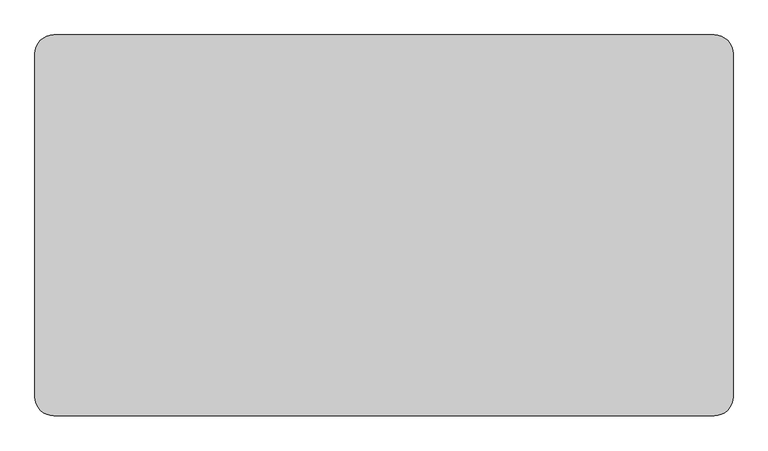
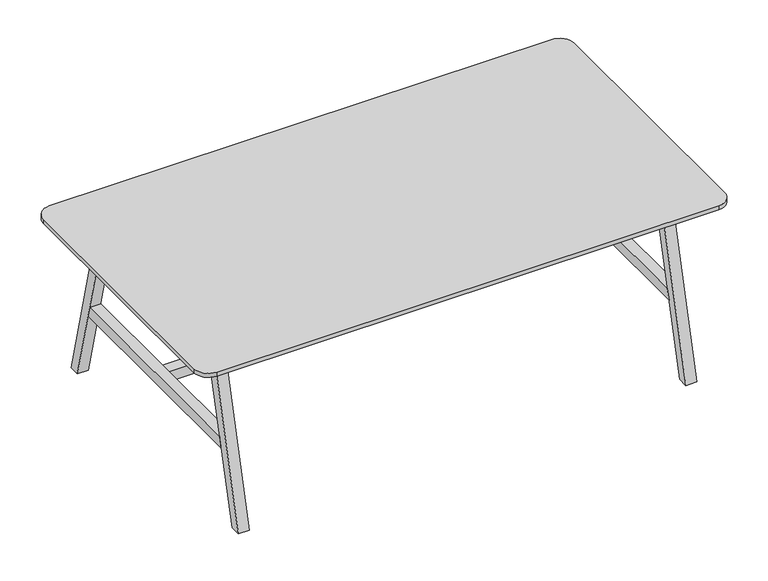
"""IFC4 building model written with IfcOpenShell, lengths in millimetres: furniture geometry, BDG_BossDesign_Tbls_AgentTables4Legs : AGE-DT-2200-1200-3D."""

from ifc_helpers import new_model, si_unit, point, frame, frame_2d, origin, place, context, project, spatial, polyline, circle_curve, trimmed, segment, composite_curve, outline, extrude, source, transform, mapped, element, save


def furniture_71a5d85f(model_context):
    return source(origin(), model_context, "Body", "SweptSolid", [
        extrude(outline(polyline([(-466.3977249, 345.0), (466.3977249, 345.0), (477.9545427, 300.0), (-477.9545427, 300.0), (-466.3977249, 345.0)])), frame((905.0, 0.0, 0.0), z_axis=(1.0, 0.0, 0.0), x_axis=(0.0, 1.0, 0.0)), (0.0, 0.0, 1.0), 45.0),
        extrude(outline(polyline([(600.0, 0.0), (554.9999949, 0.0), (385.5, 660.0), (430.5000051, 660.0), (600.0, 0.0)])), frame((-950.0, 0.0, 0.0), z_axis=(1.0, 0.0, 0.0), x_axis=(0.0, 1.0, 0.0)), (0.0, 0.0, 1.0), 45.0),
        extrude(outline(polyline([(-600.0, 0.0), (-430.5000051, 660.0), (-385.5, 660.0), (-554.9999949, 0.0), (-600.0, 0.0)])), frame((-950.0, 0.0, 0.0), z_axis=(1.0, 0.0, 0.0), x_axis=(0.0, 1.0, 0.0)), (0.0, 0.0, 1.0), 45.0),
        extrude(outline(polyline([(-379.5, 722.0), (379.5, 722.0), (397.9691272, 650.0), (-397.9691272, 650.0), (-379.5, 722.0)])), frame((488.0, 0.0, 0.0), z_axis=(1.0, 0.0, 0.0), x_axis=(0.0, 1.0, 0.0)), (0.0, 0.0, 1.0), 24.0),
        extrude(outline(polyline([(-466.3977249, 345.0), (466.3977249, 345.0), (477.9545427, 300.0), (-477.9545427, 300.0), (-466.3977249, 345.0)])), frame((-950.0, 0.0, 0.0), z_axis=(1.0, 0.0, 0.0), x_axis=(0.0, 1.0, 0.0)), (0.0, 0.0, 1.0), 45.0),
        extrude(outline(polyline([(-379.5, 722.0), (379.5, 722.0), (397.9691272, 650.0), (-397.9691272, 650.0), (-379.5, 722.0)])), frame((-512.0, 0.0, 0.0), z_axis=(1.0, 0.0, 0.0), x_axis=(0.0, 1.0, 0.0)), (0.0, 0.0, 1.0), 24.0),
        extrude(outline(polyline([(-426.6006165, 634.973938), (-404.2770691, 722.0), (-379.5, 722.0), (-401.8235474, 634.973938), (-426.6006165, 634.973938)])), frame((-905.0, 0.0, 0.0), z_axis=(1.0, 0.0, 0.0), x_axis=(0.0, 1.0, 0.0)), (0.0, 0.0, 1.0), 1810.0),
        extrude(outline(polyline([(426.6006165, 634.973938), (401.8235474, 634.973938), (379.5, 722.0), (404.2770691, 722.0), (426.6006165, 634.973938)])), frame((-905.0, 0.0, 0.0), z_axis=(1.0, 0.0, 0.0), x_axis=(0.0, 1.0, 0.0)), (0.0, 0.0, 1.0), 1810.0),
        extrude(outline(polyline([(599.7999878, 0.0), (554.7999827, 0.0), (385.5, 660.0), (430.5000051, 660.0), (599.7999878, 0.0)])), frame((905.0, 0.0, 0.0), z_axis=(1.0, 0.0, 0.0), x_axis=(0.0, 1.0, 0.0)), (0.0, 0.0, 1.0), 45.0),
        extrude(outline(polyline([(-599.7999878, 0.0), (-430.5000051, 660.0), (-385.5, 660.0), (-554.7999827, 0.0), (-599.7999878, 0.0)])), frame((905.0, 0.0, 0.0), z_axis=(1.0, 0.0, 0.0), x_axis=(0.0, 1.0, 0.0)), (0.0, 0.0, 1.0), 45.0),
        extrude(outline(polyline([(905.0, 22.5000305), (905.0, -22.5000305), (-905.0, -22.5000305), (-905.0, 22.5000305), (905.0, 22.5000305)])), frame((0.0, 0.0, 300.0), z_axis=(0.0, 0.0, 1.0), x_axis=(1.0, 0.0, 0.0)), (0.0, 0.0, 1.0), 45.0),
        extrude(outline(composite_curve([segment(trimmed(circle_curve(frame_2d((1040.0, 540.0)), 60.0), [point((1040.0, 600.0))], [point((1100.0, 540.0))], False, "CARTESIAN"), True, "CONTINUOUS"), segment(polyline([(1100.0, 540.0), (1100.0, -540.0)]), True, "CONTINUOUS"), segment(trimmed(circle_curve(frame_2d((1040.0, -540.0)), 60.0), [point((1100.0, -540.0))], [point((1040.0, -600.0))], False, "CARTESIAN"), True, "CONTINUOUS"), segment(polyline([(1040.0, -600.0), (-1040.0, -600.0)]), True, "CONTINUOUS"), segment(trimmed(circle_curve(frame_2d((-1040.0, -540.0)), 60.0), [point((-1040.0, -600.0))], [point((-1100.0, -540.0))], False, "CARTESIAN"), True, "CONTINUOUS"), segment(polyline([(-1100.0, -540.0), (-1100.0, 540.0)]), True, "CONTINUOUS"), segment(trimmed(circle_curve(frame_2d((-1040.0, 540.0)), 60.0), [point((-1100.0, 540.0))], [point((-1040.0, 600.0))], False, "CARTESIAN"), True, "CONTINUOUS"), segment(polyline([(-1040.0, 600.0), (1040.0, 600.0)]), True, "CONTINUOUS")], self_intersect=False)), frame((0.0, 0.0, 722.0), z_axis=(0.0, 0.0, 1.0), x_axis=(1.0, 0.0, 0.0)), (0.0, 0.0, 1.0), 18.0),
    ])


if __name__ == "__main__":
    model = new_model("IFC4")
    model_context = context("Model", 3, world=origin())
    ifc_project = project(units=[si_unit("LENGTHUNIT", "METRE", prefix="MILLI")], contexts=[model_context])
    site = spatial("IfcSite", under=ifc_project)
    building = spatial("IfcBuilding", under=site)
    placement = place(None, origin())
    furniture_shape = furniture_71a5d85f(model_context)
    element("IfcFurniture", 1, ObjectType="BDG_BossDesign_Tbls_AgentTables4Legs : AGE-DT-2200-1200-3D", at=placement, inside=building, context=model_context, shape_type="MappedRepresentation", body=[
        mapped(furniture_shape, transform((0.0, 0.0, 0.0), x_axis=(1.0, 0.0, 0.0), y_axis=(0.0, 1.0, 0.0), z_axis=(0.0, 0.0, 1.0))),
    ])
    save(model, "model.ifc")
